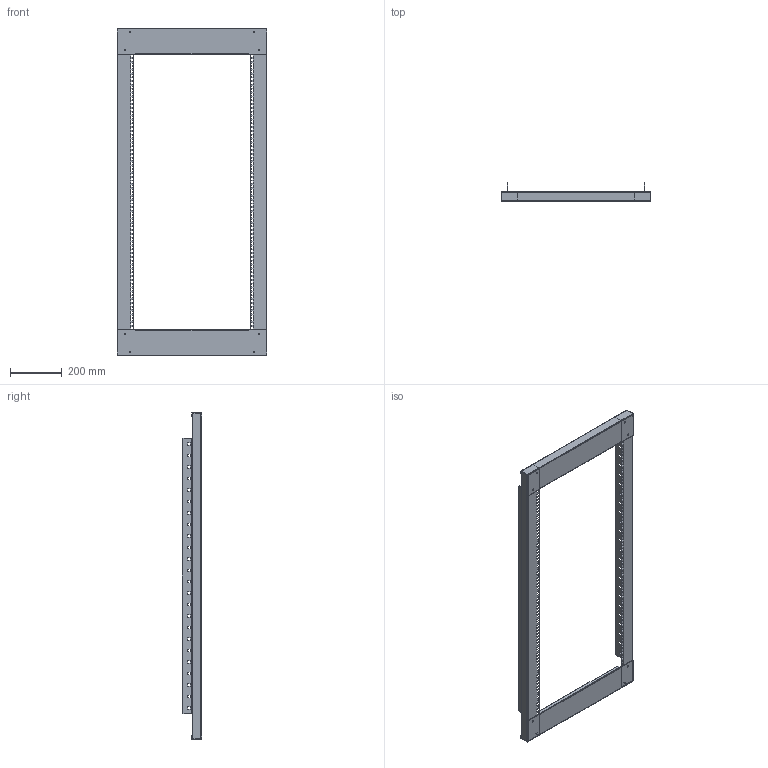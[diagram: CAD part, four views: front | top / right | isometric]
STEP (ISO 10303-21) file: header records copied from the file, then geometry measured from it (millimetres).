
FILE_DESCRIPTION (( 'STEP AP203' ), '1' );
FILE_NAME ('CorniceH8.STEP', '2021-12-01T09:24:03', ( '' ), ( '' ), 'SwSTEP 2.0', 'SolidWorks 2020', '' );
FILE_SCHEMA (( 'CONFIG_CONTROL_DESIGN' ));
Length unit declared in the file: millimetre
Products named in the file (3): CorniceH8; MontanteH8rack; Profilato_oriz_chiusura_H7_H8
Assembly tree (4 placements, depth 2):
  CorniceH8
    MontanteH8rack  x2
    Profilato_oriz_chiusura_H7_H8  x2
Bounding box: 580 x 73.85 x 1270 mm (x, y, z)
Volume: 916617.9 mm3; surface area: 1139567.4 mm2
Topology: 4 solids, 4 shells, 1012 faces, 2964 edges, 1960 vertices
Faces by surface type: plane 980, cylinder 32
Entity records: 17219 total; most frequent: CARTESIAN_POINT 2975, ORIENTED_EDGE 2964, DIRECTION 2540, EDGE_CURVE 1482, VECTOR 1450, LINE 1450, VERTEX_POINT 980, EDGE_LOOP 718
